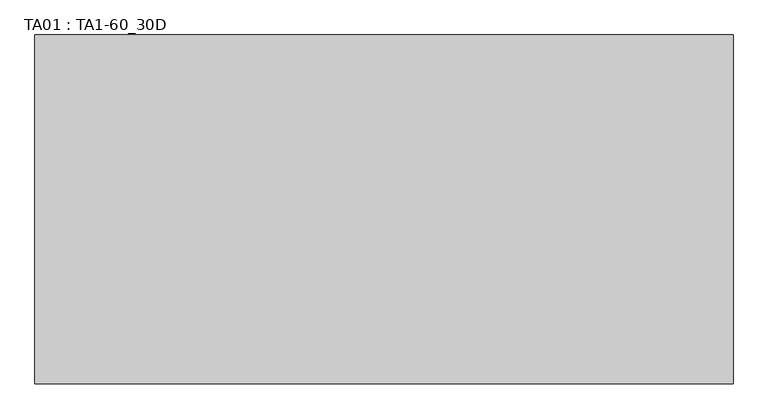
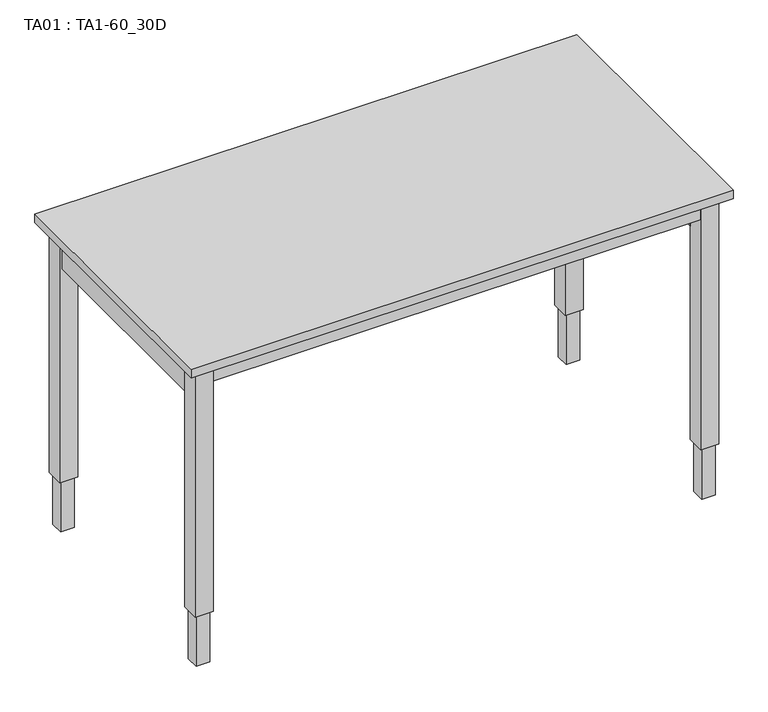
"""IFC4 building model written with IfcOpenShell, lengths in millimetres: furniture geometry, TA01 : TA1-60_30D."""

from ifc_helpers import new_model, si_unit, frame, origin, origin_with_axes, place, context, project, spatial, polyline, outline, extrude, source, transform, mapped, element, save


def ta01_ta1_60_30d_dd2c573f(model_context):
    return source(origin(), model_context, "Body", "SweptSolid", [
        extrude(outline(polyline([(755.3377049, -533.4), (755.3377049, -584.2), (704.5377049, -584.2), (704.5377049, -533.4), (755.3377049, -533.4)])), frame((0.0, 0.0, 152.4), z_axis=(0.0, 0.0, 1.0), x_axis=(1.0, 0.0, 0.0)), (0.0, 0.0, 1.0), 736.6),
        extrude(outline(polyline([(748.9877049, -539.75), (748.9877049, -577.85), (710.8877049, -577.85), (710.8877049, -539.75), (748.9877049, -539.75)])), origin_with_axes(), (0.0, 0.0, 1.0), 152.4),
        extrude(outline(polyline([(-667.0622951, -533.4), (-667.0622951, -584.2), (-717.8622951, -584.2), (-717.8622951, -533.4), (-667.0622951, -533.4)])), frame((0.0, 0.0, 152.4), z_axis=(0.0, 0.0, 1.0), x_axis=(1.0, 0.0, 0.0)), (0.0, 0.0, 1.0), 736.6),
        extrude(outline(polyline([(-673.4122951, -539.75), (-673.4122951, -577.85), (-711.5122951, -577.85), (-711.5122951, -539.75), (-673.4122951, -539.75)])), origin_with_axes(), (0.0, 0.0, 1.0), 152.4),
        extrude(outline(polyline([(755.3377049, 127.0), (755.3377049, 76.2), (704.5377049, 76.2), (704.5377049, 127.0), (755.3377049, 127.0)])), frame((0.0, 0.0, 152.4), z_axis=(0.0, 0.0, 1.0), x_axis=(1.0, 0.0, 0.0)), (0.0, 0.0, 1.0), 736.6),
        extrude(outline(polyline([(748.9877049, 120.65), (748.9877049, 82.55), (710.8877049, 82.55), (710.8877049, 120.65), (748.9877049, 120.65)])), origin_with_axes(), (0.0, 0.0, 1.0), 152.4),
        extrude(outline(polyline([(-667.0622951, 127.0), (-667.0622951, 76.2), (-717.8622951, 76.2), (-717.8622951, 127.0), (-667.0622951, 127.0)])), frame((0.0, 0.0, 152.4), z_axis=(0.0, 0.0, 1.0), x_axis=(1.0, 0.0, 0.0)), (0.0, 0.0, 1.0), 736.6),
        extrude(outline(polyline([(-673.4122951, 120.65), (-673.4122951, 82.55), (-711.5122951, 82.55), (-711.5122951, 120.65), (-673.4122951, 120.65)])), origin_with_axes(), (0.0, 0.0, 1.0), 152.4),
        extrude(outline(polyline([(704.5377049, 127.0), (704.5377049, 120.65), (-667.0622951, 120.65), (-667.0622951, 127.0), (704.5377049, 127.0)])), frame((0.0, 0.0, 736.6), z_axis=(0.0, 0.0, 1.0), x_axis=(1.0, 0.0, 0.0)), (0.0, 0.0, 1.0), 101.6),
        extrude(outline(polyline([(704.5377049, 127.0), (704.5377049, 25.4), (-667.0622951, 25.4), (-667.0622951, 127.0), (704.5377049, 127.0)])), frame((0.0, 0.0, 838.2), z_axis=(0.0, 0.0, 1.0), x_axis=(1.0, 0.0, 0.0)), (0.0, 0.0, 1.0), 50.8),
        extrude(outline(polyline([(704.5377049, -584.2), (-667.0622951, -584.2), (-667.0622951, -482.6), (704.5377049, -482.6), (704.5377049, -584.2)])), frame((0.0, 0.0, 838.2), z_axis=(0.0, 0.0, 1.0), x_axis=(1.0, 0.0, 0.0)), (0.0, 0.0, 1.0), 50.8),
        extrude(outline(polyline([(748.9877049, -533.4), (704.5377049, -533.4), (704.5377049, 76.2), (748.9877049, 76.2), (748.9877049, -533.4)])), frame((0.0, 0.0, 787.4), z_axis=(0.0, 0.0, 1.0), x_axis=(1.0, 0.0, 0.0)), (0.0, 0.0, 1.0), 101.6),
        extrude(outline(polyline([(-711.5122951, -533.4), (-711.5122951, 76.2), (-667.0622951, 76.2), (-667.0622951, -533.4), (-711.5122951, -533.4)])), frame((0.0, 0.0, 787.4), z_axis=(0.0, 0.0, 1.0), x_axis=(1.0, 0.0, 0.0)), (0.0, 0.0, 1.0), 101.6),
        extrude(outline(polyline([(780.7377049, 152.4), (780.7377049, -609.6), (-743.2622951, -609.6), (-743.2622951, 152.4), (780.7377049, 152.4)])), frame((0.0, 0.0, 889.0), z_axis=(0.0, 0.0, 1.0), x_axis=(1.0, 0.0, 0.0)), (0.0, 0.0, 1.0), 25.4),
    ])


if __name__ == "__main__":
    model = new_model("IFC4")
    model_context = context("Model", 3, world=origin())
    ifc_project = project(units=[si_unit("LENGTHUNIT", "METRE", prefix="MILLI")], contexts=[model_context])
    site = spatial("IfcSite", under=ifc_project)
    building = spatial("IfcBuilding", under=site)
    placement = place(None, origin())
    ta01_ta1_60_30d_shape = ta01_ta1_60_30d_dd2c573f(model_context)
    element("IfcFurniture", 1, ObjectType="TA01 : TA1-60_30D", at=placement, inside=building, context=model_context, shape_type="MappedRepresentation", body=[
        mapped(ta01_ta1_60_30d_shape, transform((0.0, 0.0, 0.0), x_axis=(1.0, 0.0, 0.0), y_axis=(0.0, 1.0, 0.0), z_axis=(0.0, 0.0, 1.0))),
    ])
    save(model, "model.ifc")
